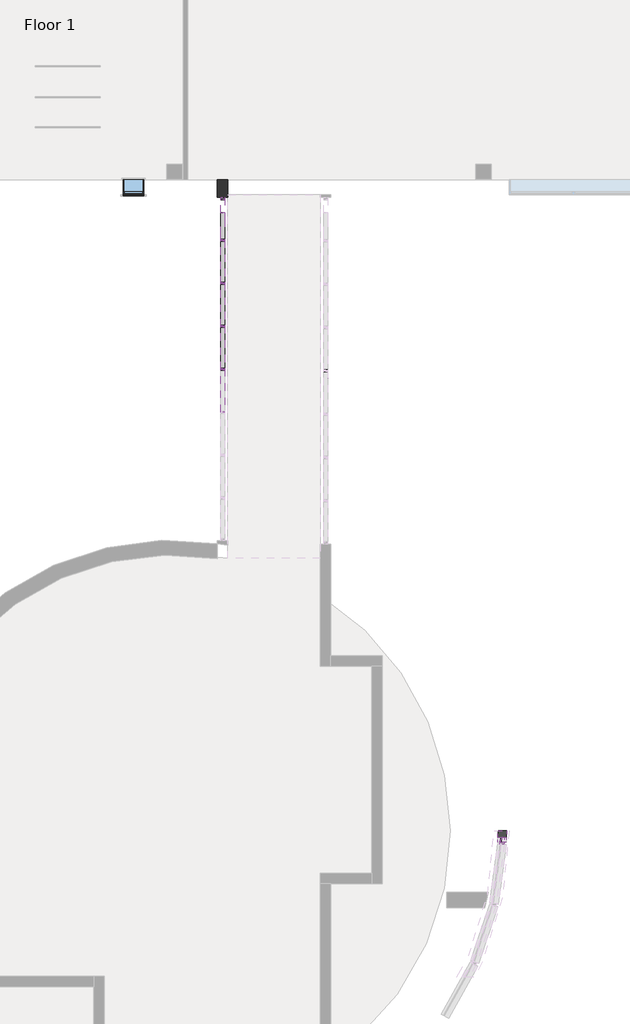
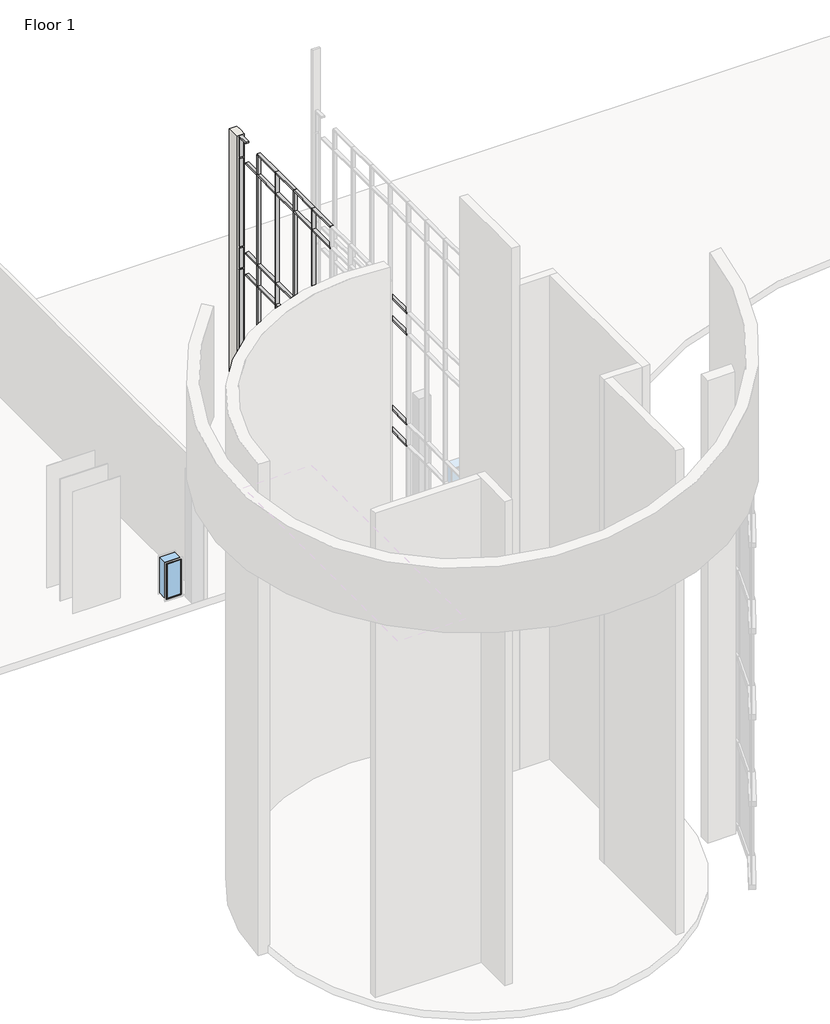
# One storey, part 8 of 11: 104 members, 5 plates, 1 wall, 1 window.
"""IFC4 building model written with IfcOpenShell, lengths in millimetres."""

from ifc_helpers import new_model, si_unit, origin, place, context, project, spatial, faceted_brep, transform, mapped, element, save
from components import member_15823cb3, member_5d07894b, member_c86c7f77, member_4cca5116, member_60e3aab2, member_7227ddca, member_3ba9e939, member_ad567e07, member_7db1855a, member_98b79ab6, member_b1809f7d, member_810865a4, member_923d5781, member_5c8c9790, member_bbf28ac8, member_d2e7e466, member_c17f1be2, member_eb4aacb2, member_4370fb8a, member_98c0bc9c, system_panel_glazed_bf13c76d, system_panel_glazed_c127a6e8, system_panel_glazed_a3432af0, window_69ce9bab

model = new_model("IFC4")

# Units and contexts
model_context = context("Model", 3, world=origin())
ifc_project = project(units=[si_unit("LENGTHUNIT", "METRE", prefix="MILLI")], contexts=[model_context])

# Site, building, storey
site = spatial("IfcSite", under=ifc_project)
building = spatial("IfcBuilding", under=site)
storey = spatial("IfcBuildingStorey", under=building, Name="Floor 1", Elevation=0.0)

# Members
placement = place(None, origin())
member_shape = member_15823cb3(model_context)
element("IfcMember", 1, ObjectType="Rectangular Mullion1 : 2.5\" x 5\" rectangular", at=placement, inside=storey, context=model_context, shape_type="MappedRepresentation", body=[
    mapped(member_shape, transform((7830.8276119, 38086.511889, 19659.6), x_axis=(0.0, 0.0, 1.0), y_axis=(1.0, 0.0, 0.0), z_axis=(0.0, 1.0, 0.0))),
])
member_2_shape = member_5d07894b(model_context)
element("IfcMember", 2, ObjectType="Rectangular Mullion1 : 2.5\" x 5\" rectangular", at=placement, inside=storey, context=model_context, shape_type="MappedRepresentation", body=[
    mapped(member_2_shape, transform((10878.8276119, 32955.711889, -88.9), x_axis=(0.0, 1.0, 0.0), y_axis=(1.0, 0.0, 0.0), z_axis=(0.0, 0.0, -1.0))),
])
element("IfcMember", 3, ObjectType="Rectangular Mullion1 : 2.5\" x 5\" rectangular", at=placement, inside=storey, context=model_context, shape_type="MappedRepresentation", body=[
    mapped(member_2_shape, transform((7830.8276119, 33002.5160341, -88.9), x_axis=(0.0, 1.0, 0.0), y_axis=(1.0, 0.0, 0.0), z_axis=(0.0, 0.0, -1.0))),
])
element("IfcMember", 4, ObjectType="Rectangular Mullion1 : 2.5\" x 5\" rectangular", at=placement, inside=storey, context=model_context, shape_type="MappedRepresentation", body=[
    mapped(member_2_shape, transform((7830.8276119, 35544.5139616, -88.9), x_axis=(0.0, 1.0, 0.0), y_axis=(1.0, 0.0, 0.0), z_axis=(0.0, 0.0, -1.0))),
])
element("IfcMember", 5, ObjectType="Rectangular Mullion1 : 2.5\" x 5\" rectangular", at=placement, inside=storey, context=model_context, shape_type="MappedRepresentation", body=[
    mapped(member_2_shape, transform((7830.8276119, 34273.5149978, -88.9), x_axis=(0.0, 1.0, 0.0), y_axis=(1.0, 0.0, 0.0), z_axis=(0.0, 0.0, -1.0))),
])
element("IfcMember", 6, ObjectType="Rectangular Mullion1 : 2.5\" x 5\" rectangular", at=placement, inside=storey, context=model_context, shape_type="MappedRepresentation", body=[
    mapped(member_2_shape, transform((7830.8276119, 36815.5129253, -88.9), x_axis=(0.0, 1.0, 0.0), y_axis=(1.0, 0.0, 0.0), z_axis=(0.0, 0.0, -1.0))),
])
member_3_shape = member_c86c7f77(model_context)
element("IfcMember", 7, ObjectType="Rectangular Mullion1 : 2.5\" x 5\" rectangular", at=placement, inside=storey, context=model_context, shape_type="MappedRepresentation", body=[
    mapped(member_3_shape, transform((7830.8276119, 34273.5149978, 5486.4), x_axis=(0.0, 0.0, 1.0), y_axis=(1.0, 0.0, 0.0), z_axis=(0.0, 1.0, 0.0))),
])
element("IfcMember", 8, ObjectType="Rectangular Mullion1 : 2.5\" x 5\" rectangular", at=placement, inside=storey, context=model_context, shape_type="MappedRepresentation", body=[
    mapped(member_3_shape, transform((7830.8276119, 36815.5129253, 5486.4), x_axis=(0.0, 0.0, 1.0), y_axis=(1.0, 0.0, 0.0), z_axis=(0.0, 1.0, 0.0))),
])
element("IfcMember", 9, ObjectType="Rectangular Mullion1 : 2.5\" x 5\" rectangular", at=placement, inside=storey, context=model_context, shape_type="MappedRepresentation", body=[
    mapped(member_3_shape, transform((7830.8276119, 33002.5160341, 5486.4), x_axis=(0.0, 0.0, 1.0), y_axis=(1.0, 0.0, 0.0), z_axis=(0.0, 1.0, 0.0))),
])
element("IfcMember", 10, ObjectType="Rectangular Mullion1 : 2.5\" x 5\" rectangular", at=placement, inside=storey, context=model_context, shape_type="MappedRepresentation", body=[
    mapped(member_3_shape, transform((7830.8276119, 35544.5139616, 5486.4), x_axis=(0.0, 0.0, 1.0), y_axis=(1.0, 0.0, 0.0), z_axis=(0.0, 1.0, 0.0))),
])
element("IfcMember", 11, ObjectType="Rectangular Mullion1 : 2.5\" x 5\" rectangular", at=placement, inside=storey, context=model_context, shape_type="MappedRepresentation", body=[
    mapped(member_3_shape, transform((7830.8276119, 34273.5149978, 10210.8), x_axis=(0.0, 0.0, 1.0), y_axis=(1.0, 0.0, 0.0), z_axis=(0.0, 1.0, 0.0))),
])
element("IfcMember", 12, ObjectType="Rectangular Mullion1 : 2.5\" x 5\" rectangular", at=placement, inside=storey, context=model_context, shape_type="MappedRepresentation", body=[
    mapped(member_3_shape, transform((7830.8276119, 36815.5129253, 10210.8), x_axis=(0.0, 0.0, 1.0), y_axis=(1.0, 0.0, 0.0), z_axis=(0.0, 1.0, 0.0))),
])
element("IfcMember", 13, ObjectType="Rectangular Mullion1 : 2.5\" x 5\" rectangular", at=placement, inside=storey, context=model_context, shape_type="MappedRepresentation", body=[
    mapped(member_3_shape, transform((7830.8276119, 33002.5160341, 10210.8), x_axis=(0.0, 0.0, 1.0), y_axis=(1.0, 0.0, 0.0), z_axis=(0.0, 1.0, 0.0))),
])
element("IfcMember", 14, ObjectType="Rectangular Mullion1 : 2.5\" x 5\" rectangular", at=placement, inside=storey, context=model_context, shape_type="MappedRepresentation", body=[
    mapped(member_3_shape, transform((7830.8276119, 35544.5139616, 10210.8), x_axis=(0.0, 0.0, 1.0), y_axis=(1.0, 0.0, 0.0), z_axis=(0.0, 1.0, 0.0))),
])
element("IfcMember", 15, ObjectType="Rectangular Mullion1 : 2.5\" x 5\" rectangular", at=placement, inside=storey, context=model_context, shape_type="MappedRepresentation", body=[
    mapped(member_3_shape, transform((7830.8276119, 34273.5149978, 14935.2), x_axis=(0.0, 0.0, 1.0), y_axis=(1.0, 0.0, 0.0), z_axis=(0.0, 1.0, 0.0))),
])
element("IfcMember", 16, ObjectType="Rectangular Mullion1 : 2.5\" x 5\" rectangular", at=placement, inside=storey, context=model_context, shape_type="MappedRepresentation", body=[
    mapped(member_3_shape, transform((7830.8276119, 36815.5129253, 14935.2), x_axis=(0.0, 0.0, 1.0), y_axis=(1.0, 0.0, 0.0), z_axis=(0.0, 1.0, 0.0))),
])
element("IfcMember", 17, ObjectType="Rectangular Mullion1 : 2.5\" x 5\" rectangular", at=placement, inside=storey, context=model_context, shape_type="MappedRepresentation", body=[
    mapped(member_3_shape, transform((7830.8276119, 33002.5160341, 14935.2), x_axis=(0.0, 0.0, 1.0), y_axis=(1.0, 0.0, 0.0), z_axis=(0.0, 1.0, 0.0))),
])
element("IfcMember", 18, ObjectType="Rectangular Mullion1 : 2.5\" x 5\" rectangular", at=placement, inside=storey, context=model_context, shape_type="MappedRepresentation", body=[
    mapped(member_3_shape, transform((7830.8276119, 35544.5139616, 14935.2), x_axis=(0.0, 0.0, 1.0), y_axis=(1.0, 0.0, 0.0), z_axis=(0.0, 1.0, 0.0))),
])
element("IfcMember", 19, ObjectType="Rectangular Mullion1 : 2.5\" x 5\" rectangular", at=placement, inside=storey, context=model_context, shape_type="MappedRepresentation", body=[
    mapped(member_3_shape, transform((7830.8276119, 34273.5149978, 18745.2), x_axis=(0.0, 0.0, 1.0), y_axis=(1.0, 0.0, 0.0), z_axis=(0.0, 1.0, 0.0))),
])
element("IfcMember", 20, ObjectType="Rectangular Mullion1 : 2.5\" x 5\" rectangular", at=placement, inside=storey, context=model_context, shape_type="MappedRepresentation", body=[
    mapped(member_3_shape, transform((7830.8276119, 36815.5129253, 18745.2), x_axis=(0.0, 0.0, 1.0), y_axis=(1.0, 0.0, 0.0), z_axis=(0.0, 1.0, 0.0))),
])
element("IfcMember", 21, ObjectType="Rectangular Mullion1 : 2.5\" x 5\" rectangular", at=placement, inside=storey, context=model_context, shape_type="MappedRepresentation", body=[
    mapped(member_3_shape, transform((7830.8276119, 33002.5160341, 18745.2), x_axis=(0.0, 0.0, 1.0), y_axis=(1.0, 0.0, 0.0), z_axis=(0.0, 1.0, 0.0))),
])
element("IfcMember", 22, ObjectType="Rectangular Mullion1 : 2.5\" x 5\" rectangular", at=placement, inside=storey, context=model_context, shape_type="MappedRepresentation", body=[
    mapped(member_3_shape, transform((7830.8276119, 35544.5139616, 18745.2), x_axis=(0.0, 0.0, 1.0), y_axis=(1.0, 0.0, 0.0), z_axis=(0.0, 1.0, 0.0))),
])
element("IfcMember", 23, ObjectType="Rectangular Mullion1 : 2.5\" x 5\" rectangular", at=placement, inside=storey, context=model_context, shape_type="MappedRepresentation", body=[
    mapped(member_3_shape, transform((7830.8276119, 34273.5149978, 14020.8), x_axis=(0.0, 0.0, 1.0), y_axis=(1.0, 0.0, 0.0), z_axis=(0.0, 1.0, 0.0))),
])
element("IfcMember", 24, ObjectType="Rectangular Mullion1 : 2.5\" x 5\" rectangular", at=placement, inside=storey, context=model_context, shape_type="MappedRepresentation", body=[
    mapped(member_3_shape, transform((7830.8276119, 36815.5129253, 14020.8), x_axis=(0.0, 0.0, 1.0), y_axis=(1.0, 0.0, 0.0), z_axis=(0.0, 1.0, 0.0))),
])
element("IfcMember", 25, ObjectType="Rectangular Mullion1 : 2.5\" x 5\" rectangular", at=placement, inside=storey, context=model_context, shape_type="MappedRepresentation", body=[
    mapped(member_3_shape, transform((7830.8276119, 33002.5160341, 14020.8), x_axis=(0.0, 0.0, 1.0), y_axis=(1.0, 0.0, 0.0), z_axis=(0.0, 1.0, 0.0))),
])
element("IfcMember", 26, ObjectType="Rectangular Mullion1 : 2.5\" x 5\" rectangular", at=placement, inside=storey, context=model_context, shape_type="MappedRepresentation", body=[
    mapped(member_3_shape, transform((7830.8276119, 35544.5139616, 14020.8), x_axis=(0.0, 0.0, 1.0), y_axis=(1.0, 0.0, 0.0), z_axis=(0.0, 1.0, 0.0))),
])
element("IfcMember", 27, ObjectType="Rectangular Mullion1 : 2.5\" x 5\" rectangular", at=placement, inside=storey, context=model_context, shape_type="MappedRepresentation", body=[
    mapped(member_3_shape, transform((7830.8276119, 34273.5149978, 9296.4), x_axis=(0.0, 0.0, 1.0), y_axis=(1.0, 0.0, 0.0), z_axis=(0.0, 1.0, 0.0))),
])
element("IfcMember", 28, ObjectType="Rectangular Mullion1 : 2.5\" x 5\" rectangular", at=placement, inside=storey, context=model_context, shape_type="MappedRepresentation", body=[
    mapped(member_3_shape, transform((7830.8276119, 36815.5129253, 9296.4), x_axis=(0.0, 0.0, 1.0), y_axis=(1.0, 0.0, 0.0), z_axis=(0.0, 1.0, 0.0))),
])
element("IfcMember", 29, ObjectType="Rectangular Mullion1 : 2.5\" x 5\" rectangular", at=placement, inside=storey, context=model_context, shape_type="MappedRepresentation", body=[
    mapped(member_3_shape, transform((7830.8276119, 33002.5160341, 9296.4), x_axis=(0.0, 0.0, 1.0), y_axis=(1.0, 0.0, 0.0), z_axis=(0.0, 1.0, 0.0))),
])
element("IfcMember", 30, ObjectType="Rectangular Mullion1 : 2.5\" x 5\" rectangular", at=placement, inside=storey, context=model_context, shape_type="MappedRepresentation", body=[
    mapped(member_3_shape, transform((7830.8276119, 35544.5139616, 9296.4), x_axis=(0.0, 0.0, 1.0), y_axis=(1.0, 0.0, 0.0), z_axis=(0.0, 1.0, 0.0))),
])
element("IfcMember", 31, ObjectType="Rectangular Mullion1 : 2.5\" x 5\" rectangular", at=placement, inside=storey, context=model_context, shape_type="MappedRepresentation", body=[
    mapped(member_3_shape, transform((7830.8276119, 34273.5149978, 4572.0), x_axis=(0.0, 0.0, 1.0), y_axis=(1.0, 0.0, 0.0), z_axis=(0.0, 1.0, 0.0))),
])
element("IfcMember", 32, ObjectType="Rectangular Mullion1 : 2.5\" x 5\" rectangular", at=placement, inside=storey, context=model_context, shape_type="MappedRepresentation", body=[
    mapped(member_3_shape, transform((7830.8276119, 36815.5129253, 4572.0), x_axis=(0.0, 0.0, 1.0), y_axis=(1.0, 0.0, 0.0), z_axis=(0.0, 1.0, 0.0))),
])
element("IfcMember", 33, ObjectType="Rectangular Mullion1 : 2.5\" x 5\" rectangular", at=placement, inside=storey, context=model_context, shape_type="MappedRepresentation", body=[
    mapped(member_3_shape, transform((7830.8276119, 33002.5160341, 4572.0), x_axis=(0.0, 0.0, 1.0), y_axis=(1.0, 0.0, 0.0), z_axis=(0.0, 1.0, 0.0))),
])
element("IfcMember", 34, ObjectType="Rectangular Mullion1 : 2.5\" x 5\" rectangular", at=placement, inside=storey, context=model_context, shape_type="MappedRepresentation", body=[
    mapped(member_3_shape, transform((7830.8276119, 35544.5139616, 4572.0), x_axis=(0.0, 0.0, 1.0), y_axis=(1.0, 0.0, 0.0), z_axis=(0.0, 1.0, 0.0))),
])
member_4_shape = member_4cca5116(model_context)
element("IfcMember", 35, ObjectType="Rectangular Mullion1 : 2.5\" x 5\" rectangular", at=placement, inside=storey, context=model_context, shape_type="MappedRepresentation", body=[
    mapped(member_4_shape, transform((7830.8276119, 37629.311889, 5486.4), x_axis=(0.0, 0.0, 1.0), y_axis=(1.0, 0.0, 0.0), z_axis=(0.0, 1.0, 0.0))),
])
element("IfcMember", 36, ObjectType="Rectangular Mullion1 : 2.5\" x 5\" rectangular", at=placement, inside=storey, context=model_context, shape_type="MappedRepresentation", body=[
    mapped(member_4_shape, transform((7830.8276119, 37629.311889, 10210.8), x_axis=(0.0, 0.0, 1.0), y_axis=(1.0, 0.0, 0.0), z_axis=(0.0, 1.0, 0.0))),
])
element("IfcMember", 37, ObjectType="Rectangular Mullion1 : 2.5\" x 5\" rectangular", at=placement, inside=storey, context=model_context, shape_type="MappedRepresentation", body=[
    mapped(member_4_shape, transform((7830.8276119, 37629.311889, 14935.2), x_axis=(0.0, 0.0, 1.0), y_axis=(1.0, 0.0, 0.0), z_axis=(0.0, 1.0, 0.0))),
])
element("IfcMember", 38, ObjectType="Rectangular Mullion1 : 2.5\" x 5\" rectangular", at=placement, inside=storey, context=model_context, shape_type="MappedRepresentation", body=[
    mapped(member_4_shape, transform((7830.8276119, 37629.311889, 18745.2), x_axis=(0.0, 0.0, 1.0), y_axis=(1.0, 0.0, 0.0), z_axis=(0.0, 1.0, 0.0))),
])
element("IfcMember", 39, ObjectType="Rectangular Mullion1 : 2.5\" x 5\" rectangular", at=placement, inside=storey, context=model_context, shape_type="MappedRepresentation", body=[
    mapped(member_4_shape, transform((7830.8276119, 37629.311889, 14020.8), x_axis=(0.0, 0.0, 1.0), y_axis=(1.0, 0.0, 0.0), z_axis=(0.0, 1.0, 0.0))),
])
element("IfcMember", 40, ObjectType="Rectangular Mullion1 : 2.5\" x 5\" rectangular", at=placement, inside=storey, context=model_context, shape_type="MappedRepresentation", body=[
    mapped(member_4_shape, transform((7830.8276119, 37629.311889, 9296.4), x_axis=(0.0, 0.0, 1.0), y_axis=(1.0, 0.0, 0.0), z_axis=(0.0, 1.0, 0.0))),
])
element("IfcMember", 41, ObjectType="Rectangular Mullion1 : 2.5\" x 5\" rectangular", at=placement, inside=storey, context=model_context, shape_type="MappedRepresentation", body=[
    mapped(member_4_shape, transform((7830.8276119, 37629.311889, 4572.0), x_axis=(0.0, 0.0, 1.0), y_axis=(1.0, 0.0, 0.0), z_axis=(0.0, 1.0, 0.0))),
])
member_5_shape = member_60e3aab2(model_context)
element("IfcMember", 42, ObjectType="Rectangular Mullion1 : 2.5\" x 5\" rectangular", at=placement, inside=storey, context=model_context, shape_type="MappedRepresentation", body=[
    mapped(member_5_shape, transform((7830.8276119, 33002.5160341, -152.4), x_axis=(0.0, 0.0, -1.0), y_axis=(1.0, 0.0, 0.0), z_axis=(0.0, -1.0, 0.0))),
])
element("IfcMember", 43, ObjectType="Rectangular Mullion1 : 2.5\" x 5\" rectangular", at=placement, inside=storey, context=model_context, shape_type="MappedRepresentation", body=[
    mapped(member_5_shape, transform((7830.8276119, 35544.5139616, -152.4), x_axis=(0.0, 0.0, -1.0), y_axis=(1.0, 0.0, 0.0), z_axis=(0.0, -1.0, 0.0))),
])
element("IfcMember", 44, ObjectType="Rectangular Mullion1 : 2.5\" x 5\" rectangular", at=placement, inside=storey, context=model_context, shape_type="MappedRepresentation", body=[
    mapped(member_5_shape, transform((7830.8276119, 34273.5149978, -152.4), x_axis=(0.0, 0.0, -1.0), y_axis=(1.0, 0.0, 0.0), z_axis=(0.0, -1.0, 0.0))),
])
member_6_shape = member_7227ddca(model_context)
element("IfcMember", 45, ObjectType="Rectangular Mullion1 : 2.5\" x 5\" rectangular", at=placement, inside=storey, context=model_context, shape_type="MappedRepresentation", body=[
    mapped(member_6_shape, transform((7830.8276119, 36815.5129253, -152.4), x_axis=(0.0, 0.0, -1.0), y_axis=(1.0, 0.0, 0.0), z_axis=(0.0, -1.0, 0.0))),
])
element("IfcMember", 46, ObjectType="Rectangular Mullion1 : 2.5\" x 5\" rectangular", at=placement, inside=storey, context=model_context, shape_type="MappedRepresentation", body=[
    mapped(member_5_shape, transform((7830.8276119, 33002.5160341, 19659.6), x_axis=(0.0, 0.0, 1.0), y_axis=(1.0, 0.0, 0.0), z_axis=(0.0, 1.0, 0.0))),
])
element("IfcMember", 47, ObjectType="Rectangular Mullion1 : 2.5\" x 5\" rectangular", at=placement, inside=storey, context=model_context, shape_type="MappedRepresentation", body=[
    mapped(member_5_shape, transform((7830.8276119, 35544.5139616, 19659.6), x_axis=(0.0, 0.0, 1.0), y_axis=(1.0, 0.0, 0.0), z_axis=(0.0, 1.0, 0.0))),
])
element("IfcMember", 48, ObjectType="Rectangular Mullion1 : 2.5\" x 5\" rectangular", at=placement, inside=storey, context=model_context, shape_type="MappedRepresentation", body=[
    mapped(member_5_shape, transform((7830.8276119, 34273.5149978, 19659.6), x_axis=(0.0, 0.0, 1.0), y_axis=(1.0, 0.0, 0.0), z_axis=(0.0, 1.0, 0.0))),
])
element("IfcMember", 49, ObjectType="Rectangular Mullion1 : 2.5\" x 5\" rectangular", at=placement, inside=storey, context=model_context, shape_type="MappedRepresentation", body=[
    mapped(member_5_shape, transform((7830.8276119, 36815.5129253, 19659.6), x_axis=(0.0, 0.0, 1.0), y_axis=(1.0, 0.0, 0.0), z_axis=(0.0, 1.0, 0.0))),
])
member_7_shape = member_3ba9e939(model_context)
element("IfcMember", 50, ObjectType="Rectangular Mullion1 : 2.5\" x 5\" rectangular", at=placement, inside=storey, context=model_context, shape_type="MappedRepresentation", body=[
    mapped(member_7_shape, transform((7830.8276119, 33002.5160341, 5518.15), x_axis=(0.0, 1.0, 0.0), y_axis=(1.0, 0.0, 0.0), z_axis=(0.0, 0.0, -1.0))),
])
element("IfcMember", 51, ObjectType="Rectangular Mullion1 : 2.5\" x 5\" rectangular", at=placement, inside=storey, context=model_context, shape_type="MappedRepresentation", body=[
    mapped(member_7_shape, transform((7830.8276119, 33002.5160341, 10242.55), x_axis=(0.0, 1.0, 0.0), y_axis=(1.0, 0.0, 0.0), z_axis=(0.0, 0.0, -1.0))),
])
element("IfcMember", 52, ObjectType="Rectangular Mullion1 : 2.5\" x 5\" rectangular", at=placement, inside=storey, context=model_context, shape_type="MappedRepresentation", body=[
    mapped(member_7_shape, transform((7830.8276119, 33002.5160341, 14966.95), x_axis=(0.0, 1.0, 0.0), y_axis=(1.0, 0.0, 0.0), z_axis=(0.0, 0.0, -1.0))),
])
element("IfcMember", 53, ObjectType="Rectangular Mullion1 : 2.5\" x 5\" rectangular", at=placement, inside=storey, context=model_context, shape_type="MappedRepresentation", body=[
    mapped(member_7_shape, transform((7830.8276119, 35544.5139616, 5518.15), x_axis=(0.0, 1.0, 0.0), y_axis=(1.0, 0.0, 0.0), z_axis=(0.0, 0.0, -1.0))),
])
element("IfcMember", 54, ObjectType="Rectangular Mullion1 : 2.5\" x 5\" rectangular", at=placement, inside=storey, context=model_context, shape_type="MappedRepresentation", body=[
    mapped(member_7_shape, transform((7830.8276119, 35544.5139616, 10242.55), x_axis=(0.0, 1.0, 0.0), y_axis=(1.0, 0.0, 0.0), z_axis=(0.0, 0.0, -1.0))),
])
element("IfcMember", 55, ObjectType="Rectangular Mullion1 : 2.5\" x 5\" rectangular", at=placement, inside=storey, context=model_context, shape_type="MappedRepresentation", body=[
    mapped(member_7_shape, transform((7830.8276119, 35544.5139616, 14966.95), x_axis=(0.0, 1.0, 0.0), y_axis=(1.0, 0.0, 0.0), z_axis=(0.0, 0.0, -1.0))),
])
element("IfcMember", 56, ObjectType="Rectangular Mullion1 : 2.5\" x 5\" rectangular", at=placement, inside=storey, context=model_context, shape_type="MappedRepresentation", body=[
    mapped(member_7_shape, transform((7830.8276119, 34273.5149978, 5518.15), x_axis=(0.0, 1.0, 0.0), y_axis=(1.0, 0.0, 0.0), z_axis=(0.0, 0.0, -1.0))),
])
element("IfcMember", 57, ObjectType="Rectangular Mullion1 : 2.5\" x 5\" rectangular", at=placement, inside=storey, context=model_context, shape_type="MappedRepresentation", body=[
    mapped(member_7_shape, transform((7830.8276119, 34273.5149978, 10242.55), x_axis=(0.0, 1.0, 0.0), y_axis=(1.0, 0.0, 0.0), z_axis=(0.0, 0.0, -1.0))),
])
element("IfcMember", 58, ObjectType="Rectangular Mullion1 : 2.5\" x 5\" rectangular", at=placement, inside=storey, context=model_context, shape_type="MappedRepresentation", body=[
    mapped(member_7_shape, transform((7830.8276119, 34273.5149978, 14966.95), x_axis=(0.0, 1.0, 0.0), y_axis=(1.0, 0.0, 0.0), z_axis=(0.0, 0.0, -1.0))),
])
element("IfcMember", 59, ObjectType="Rectangular Mullion1 : 2.5\" x 5\" rectangular", at=placement, inside=storey, context=model_context, shape_type="MappedRepresentation", body=[
    mapped(member_7_shape, transform((7830.8276119, 36815.5129253, 5518.15), x_axis=(0.0, 1.0, 0.0), y_axis=(1.0, 0.0, 0.0), z_axis=(0.0, 0.0, -1.0))),
])
element("IfcMember", 60, ObjectType="Rectangular Mullion1 : 2.5\" x 5\" rectangular", at=placement, inside=storey, context=model_context, shape_type="MappedRepresentation", body=[
    mapped(member_7_shape, transform((7830.8276119, 36815.5129253, 10242.55), x_axis=(0.0, 1.0, 0.0), y_axis=(1.0, 0.0, 0.0), z_axis=(0.0, 0.0, -1.0))),
])
element("IfcMember", 61, ObjectType="Rectangular Mullion1 : 2.5\" x 5\" rectangular", at=placement, inside=storey, context=model_context, shape_type="MappedRepresentation", body=[
    mapped(member_7_shape, transform((7830.8276119, 36815.5129253, 14966.95), x_axis=(0.0, 1.0, 0.0), y_axis=(1.0, 0.0, 0.0), z_axis=(0.0, 0.0, -1.0))),
])
member_8_shape = member_ad567e07(model_context)
element("IfcMember", 62, ObjectType="Rectangular Mullion1 : 2.5\" x 5\" rectangular", at=placement, inside=storey, context=model_context, shape_type="MappedRepresentation", body=[
    mapped(member_8_shape, transform((7830.8276119, 33002.5160341, 18776.95), x_axis=(0.0, 1.0, 0.0), y_axis=(1.0, 0.0, 0.0), z_axis=(0.0, 0.0, -1.0))),
])
element("IfcMember", 63, ObjectType="Rectangular Mullion1 : 2.5\" x 5\" rectangular", at=placement, inside=storey, context=model_context, shape_type="MappedRepresentation", body=[
    mapped(member_8_shape, transform((7830.8276119, 35544.5139616, 18776.95), x_axis=(0.0, 1.0, 0.0), y_axis=(1.0, 0.0, 0.0), z_axis=(0.0, 0.0, -1.0))),
])
element("IfcMember", 64, ObjectType="Rectangular Mullion1 : 2.5\" x 5\" rectangular", at=placement, inside=storey, context=model_context, shape_type="MappedRepresentation", body=[
    mapped(member_8_shape, transform((7830.8276119, 34273.5149978, 18776.95), x_axis=(0.0, 1.0, 0.0), y_axis=(1.0, 0.0, 0.0), z_axis=(0.0, 0.0, -1.0))),
])
element("IfcMember", 65, ObjectType="Rectangular Mullion1 : 2.5\" x 5\" rectangular", at=placement, inside=storey, context=model_context, shape_type="MappedRepresentation", body=[
    mapped(member_8_shape, transform((7830.8276119, 36815.5129253, 18776.95), x_axis=(0.0, 1.0, 0.0), y_axis=(1.0, 0.0, 0.0), z_axis=(0.0, 0.0, -1.0))),
])
member_9_shape = member_7db1855a(model_context)
element("IfcMember", 66, ObjectType="Rectangular Mullion1 : 2.5\" x 5\" rectangular", at=placement, inside=storey, context=model_context, shape_type="MappedRepresentation", body=[
    mapped(member_9_shape, transform((7830.8276119, 33002.5160341, 14052.55), x_axis=(0.0, 1.0, 0.0), y_axis=(1.0, 0.0, 0.0), z_axis=(0.0, 0.0, -1.0))),
])
element("IfcMember", 67, ObjectType="Rectangular Mullion1 : 2.5\" x 5\" rectangular", at=placement, inside=storey, context=model_context, shape_type="MappedRepresentation", body=[
    mapped(member_9_shape, transform((7830.8276119, 33002.5160341, 9328.15), x_axis=(0.0, 1.0, 0.0), y_axis=(1.0, 0.0, 0.0), z_axis=(0.0, 0.0, -1.0))),
])
element("IfcMember", 68, ObjectType="Rectangular Mullion1 : 2.5\" x 5\" rectangular", at=placement, inside=storey, context=model_context, shape_type="MappedRepresentation", body=[
    mapped(member_9_shape, transform((7830.8276119, 33002.5160341, 4603.75), x_axis=(0.0, 1.0, 0.0), y_axis=(1.0, 0.0, 0.0), z_axis=(0.0, 0.0, -1.0))),
])
element("IfcMember", 69, ObjectType="Rectangular Mullion1 : 2.5\" x 5\" rectangular", at=placement, inside=storey, context=model_context, shape_type="MappedRepresentation", body=[
    mapped(member_9_shape, transform((7830.8276119, 35544.5139616, 14052.55), x_axis=(0.0, 1.0, 0.0), y_axis=(1.0, 0.0, 0.0), z_axis=(0.0, 0.0, -1.0))),
])
element("IfcMember", 70, ObjectType="Rectangular Mullion1 : 2.5\" x 5\" rectangular", at=placement, inside=storey, context=model_context, shape_type="MappedRepresentation", body=[
    mapped(member_9_shape, transform((7830.8276119, 35544.5139616, 9328.15), x_axis=(0.0, 1.0, 0.0), y_axis=(1.0, 0.0, 0.0), z_axis=(0.0, 0.0, -1.0))),
])
element("IfcMember", 71, ObjectType="Rectangular Mullion1 : 2.5\" x 5\" rectangular", at=placement, inside=storey, context=model_context, shape_type="MappedRepresentation", body=[
    mapped(member_9_shape, transform((7830.8276119, 35544.5139616, 4603.75), x_axis=(0.0, 1.0, 0.0), y_axis=(1.0, 0.0, 0.0), z_axis=(0.0, 0.0, -1.0))),
])
element("IfcMember", 72, ObjectType="Rectangular Mullion1 : 2.5\" x 5\" rectangular", at=placement, inside=storey, context=model_context, shape_type="MappedRepresentation", body=[
    mapped(member_9_shape, transform((7830.8276119, 34273.5149978, 14052.55), x_axis=(0.0, 1.0, 0.0), y_axis=(1.0, 0.0, 0.0), z_axis=(0.0, 0.0, -1.0))),
])
element("IfcMember", 73, ObjectType="Rectangular Mullion1 : 2.5\" x 5\" rectangular", at=placement, inside=storey, context=model_context, shape_type="MappedRepresentation", body=[
    mapped(member_9_shape, transform((7830.8276119, 34273.5149978, 9328.15), x_axis=(0.0, 1.0, 0.0), y_axis=(1.0, 0.0, 0.0), z_axis=(0.0, 0.0, -1.0))),
])
element("IfcMember", 74, ObjectType="Rectangular Mullion1 : 2.5\" x 5\" rectangular", at=placement, inside=storey, context=model_context, shape_type="MappedRepresentation", body=[
    mapped(member_9_shape, transform((7830.8276119, 34273.5149978, 4603.75), x_axis=(0.0, 1.0, 0.0), y_axis=(1.0, 0.0, 0.0), z_axis=(0.0, 0.0, -1.0))),
])
element("IfcMember", 75, ObjectType="Rectangular Mullion1 : 2.5\" x 5\" rectangular", at=placement, inside=storey, context=model_context, shape_type="MappedRepresentation", body=[
    mapped(member_9_shape, transform((7830.8276119, 36815.5129253, 14052.55), x_axis=(0.0, 1.0, 0.0), y_axis=(1.0, 0.0, 0.0), z_axis=(0.0, 0.0, -1.0))),
])
element("IfcMember", 76, ObjectType="Rectangular Mullion1 : 2.5\" x 5\" rectangular", at=placement, inside=storey, context=model_context, shape_type="MappedRepresentation", body=[
    mapped(member_9_shape, transform((7830.8276119, 36815.5129253, 9328.15), x_axis=(0.0, 1.0, 0.0), y_axis=(1.0, 0.0, 0.0), z_axis=(0.0, 0.0, -1.0))),
])
element("IfcMember", 77, ObjectType="Rectangular Mullion1 : 2.5\" x 5\" rectangular", at=placement, inside=storey, context=model_context, shape_type="MappedRepresentation", body=[
    mapped(member_9_shape, transform((7830.8276119, 36815.5129253, 4603.75), x_axis=(0.0, 1.0, 0.0), y_axis=(1.0, 0.0, 0.0), z_axis=(0.0, 0.0, -1.0))),
])
member_10_shape = member_98b79ab6(model_context)
element("IfcMember", 78, ObjectType="Rectangular Mullion1 : 2.5\" x 5\" rectangular", at=placement, inside=storey, context=model_context, shape_type="MappedRepresentation", body=[
    mapped(member_10_shape, transform((10878.8276119, 32955.711889, 14935.2), x_axis=(0.0, 0.0, 1.0), y_axis=(1.0, 0.0, 0.0), z_axis=(0.0, 1.0, 0.0))),
])
element("IfcMember", 79, ObjectType="Rectangular Mullion1 : 2.5\" x 5\" rectangular", at=placement, inside=storey, context=model_context, shape_type="MappedRepresentation", body=[
    mapped(member_10_shape, transform((10878.8276119, 32955.711889, 10210.8), x_axis=(0.0, 0.0, 1.0), y_axis=(1.0, 0.0, 0.0), z_axis=(0.0, 1.0, 0.0))),
])
element("IfcMember", 80, ObjectType="Rectangular Mullion1 : 2.5\" x 5\" rectangular", at=placement, inside=storey, context=model_context, shape_type="MappedRepresentation", body=[
    mapped(member_10_shape, transform((10878.8276119, 32955.711889, 5486.4), x_axis=(0.0, 0.0, 1.0), y_axis=(1.0, 0.0, 0.0), z_axis=(0.0, 1.0, 0.0))),
])
element("IfcMember", 81, ObjectType="Rectangular Mullion1 : 2.5\" x 5\" rectangular", at=placement, inside=storey, context=model_context, shape_type="MappedRepresentation", body=[
    mapped(member_10_shape, transform((10878.8276119, 32955.711889, 9296.4), x_axis=(0.0, 0.0, 1.0), y_axis=(1.0, 0.0, 0.0), z_axis=(0.0, 1.0, 0.0))),
])
element("IfcMember", 82, ObjectType="Rectangular Mullion1 : 2.5\" x 5\" rectangular", at=placement, inside=storey, context=model_context, shape_type="MappedRepresentation", body=[
    mapped(member_10_shape, transform((10878.8276119, 32955.711889, 4572.0), x_axis=(0.0, 0.0, 1.0), y_axis=(1.0, 0.0, 0.0), z_axis=(0.0, 1.0, 0.0))),
])
element("IfcMember", 83, ObjectType="Rectangular Mullion1 : 2.5\" x 5\" rectangular", at=placement, inside=storey, context=model_context, shape_type="MappedRepresentation", body=[
    mapped(member_10_shape, transform((10878.8276119, 32955.711889, 14020.8), x_axis=(0.0, 0.0, 1.0), y_axis=(1.0, 0.0, 0.0), z_axis=(0.0, 1.0, 0.0))),
])
member_11_shape = member_b1809f7d(model_context)
element("IfcMember", 84, ObjectType="Rectangular Mullion1 : 2.5\" x 5\" rectangular", at=placement, inside=storey, context=model_context, shape_type="MappedRepresentation", body=[
    mapped(member_11_shape, transform((16104.259042, 19138.1495032, 17373.6), x_axis=(0.0, 0.0, 1.0), y_axis=(0.9998148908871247, -0.01924016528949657, 0.0), z_axis=(0.01924016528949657, 0.9998148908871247, 0.0))),
])
member_12_shape = member_810865a4(model_context)
element("IfcMember", 85, ObjectType="Rectangular Mullion1 : 2.5\" x 5\" rectangular", at=placement, inside=storey, context=model_context, shape_type="MappedRepresentation", body=[
    mapped(member_12_shape, transform((16100.9680149, 18967.1313281, 7315.2), x_axis=(0.03847320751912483, 0.9992596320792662, 0.0), y_axis=(0.9992596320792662, -0.03847320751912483, 0.0), z_axis=(0.0, 0.0, -1.0))),
])
element("IfcMember", 86, ObjectType="Rectangular Mullion1 : 2.5\" x 5\" rectangular", at=placement, inside=storey, context=model_context, shape_type="MappedRepresentation", body=[
    mapped(member_12_shape, transform((16100.9680149, 18967.1313281, 10972.8), x_axis=(0.03847320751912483, 0.9992596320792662, 0.0), y_axis=(0.9992596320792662, -0.03847320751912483, 0.0), z_axis=(0.0, 0.0, -1.0))),
])
member_13_shape = member_923d5781(model_context)
element("IfcMember", 87, ObjectType="Rectangular Mullion1 : 2.5\" x 5\" rectangular", at=placement, inside=storey, context=model_context, shape_type="MappedRepresentation", body=[
    mapped(member_13_shape, transform((16100.9680149, 18967.1313281, 14630.4), x_axis=(0.03847320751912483, 0.9992596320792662, 0.0), y_axis=(0.9992596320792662, -0.03847320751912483, 0.0), z_axis=(0.0, 0.0, -1.0))),
])
member_14_shape = member_5c8c9790(model_context)
element("IfcMember", 88, ObjectType="Rectangular Mullion1 : 2.5\" x 5\" rectangular", at=placement, inside=storey, context=model_context, shape_type="MappedRepresentation", body=[
    mapped(member_14_shape, transform((7830.8276119, 38086.511889, -88.9), x_axis=(0.0, 1.0, 0.0), y_axis=(1.0, 0.0, 0.0), z_axis=(0.0, 0.0, -1.0))),
])
member_15_shape = member_bbf28ac8(model_context)
element("IfcMember", 89, ObjectType="Rectangular Mullion1 : 2.5\" x 5\" rectangular", at=placement, inside=storey, context=model_context, shape_type="MappedRepresentation", body=[
    mapped(member_15_shape, transform((7830.8276119, 38086.511889, 5518.15), x_axis=(0.0, 1.0, 0.0), y_axis=(1.0, 0.0, 0.0), z_axis=(0.0, 0.0, -1.0))),
])
element("IfcMember", 90, ObjectType="Rectangular Mullion1 : 2.5\" x 5\" rectangular", at=placement, inside=storey, context=model_context, shape_type="MappedRepresentation", body=[
    mapped(member_15_shape, transform((7830.8276119, 38086.511889, 10242.55), x_axis=(0.0, 1.0, 0.0), y_axis=(1.0, 0.0, 0.0), z_axis=(0.0, 0.0, -1.0))),
])
element("IfcMember", 91, ObjectType="Rectangular Mullion1 : 2.5\" x 5\" rectangular", at=placement, inside=storey, context=model_context, shape_type="MappedRepresentation", body=[
    mapped(member_15_shape, transform((7830.8276119, 38086.511889, 14966.95), x_axis=(0.0, 1.0, 0.0), y_axis=(1.0, 0.0, 0.0), z_axis=(0.0, 0.0, -1.0))),
])
member_16_shape = member_d2e7e466(model_context)
element("IfcMember", 92, ObjectType="Rectangular Mullion1 : 2.5\" x 5\" rectangular", at=placement, inside=storey, context=model_context, shape_type="MappedRepresentation", body=[
    mapped(member_16_shape, transform((7830.8276119, 38086.511889, 14052.55), x_axis=(0.0, 1.0, 0.0), y_axis=(1.0, 0.0, 0.0), z_axis=(0.0, 0.0, -1.0))),
])
element("IfcMember", 93, ObjectType="Rectangular Mullion1 : 2.5\" x 5\" rectangular", at=placement, inside=storey, context=model_context, shape_type="MappedRepresentation", body=[
    mapped(member_16_shape, transform((7830.8276119, 38086.511889, 9328.15), x_axis=(0.0, 1.0, 0.0), y_axis=(1.0, 0.0, 0.0), z_axis=(0.0, 0.0, -1.0))),
])
element("IfcMember", 94, ObjectType="Rectangular Mullion1 : 2.5\" x 5\" rectangular", at=placement, inside=storey, context=model_context, shape_type="MappedRepresentation", body=[
    mapped(member_16_shape, transform((7830.8276119, 38086.511889, 4603.75), x_axis=(0.0, 1.0, 0.0), y_axis=(1.0, 0.0, 0.0), z_axis=(0.0, 0.0, -1.0))),
])
member_17_shape = member_c17f1be2(model_context)
element("IfcMember", 95, ObjectType="Rectangular Mullion1 : 2.5\" x 5\" rectangular", at=placement, inside=storey, context=model_context, shape_type="MappedRepresentation", body=[
    mapped(member_17_shape, transform((7830.8276119, 38086.511889, 18776.95), x_axis=(0.0, 1.0, 0.0), y_axis=(1.0, 0.0, 0.0), z_axis=(0.0, 0.0, -1.0))),
])
member_18_shape = member_eb4aacb2(model_context)
element("IfcMember", 96, ObjectType="Rectangular Mullion1 : 8\" x 10\" rectangular", at=placement, inside=storey, context=model_context, shape_type="MappedRepresentation", body=[
    mapped(member_18_shape, transform((16104.259042, 19138.1495032, 3657.6), x_axis=(0.0, 0.0, 1.0), y_axis=(0.9998148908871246, -0.019240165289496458, 0.0), z_axis=(0.019240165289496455, 0.9998148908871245, 0.0))),
])
element("IfcMember", 97, ObjectType="Rectangular Mullion1 : 8\" x 10\" rectangular", at=placement, inside=storey, context=model_context, shape_type="MappedRepresentation", body=[
    mapped(member_18_shape, transform((16104.259042, 19138.1495032, 7315.2), x_axis=(0.0, 0.0, 1.0), y_axis=(0.9998148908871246, -0.019240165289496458, 0.0), z_axis=(0.019240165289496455, 0.9998148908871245, 0.0))),
])
element("IfcMember", 98, ObjectType="Rectangular Mullion1 : 8\" x 10\" rectangular", at=placement, inside=storey, context=model_context, shape_type="MappedRepresentation", body=[
    mapped(member_18_shape, transform((16104.259042, 19138.1495032, 10972.8), x_axis=(0.0, 0.0, 1.0), y_axis=(0.9998148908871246, -0.019240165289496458, 0.0), z_axis=(0.019240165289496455, 0.9998148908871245, 0.0))),
])
element("IfcMember", 99, ObjectType="Rectangular Mullion1 : 8\" x 10\" rectangular", at=placement, inside=storey, context=model_context, shape_type="MappedRepresentation", body=[
    mapped(member_18_shape, transform((16104.259042, 19138.1495032, 14630.4), x_axis=(0.0, 0.0, 1.0), y_axis=(0.9998148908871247, -0.01924016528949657, 0.0), z_axis=(0.01924016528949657, 0.9998148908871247, 0.0))),
])
member_19_shape = member_4370fb8a(model_context)
element("IfcMember", 100, ObjectType="Rectangular Mullion1 : 8\" x 10\" rectangular", at=placement, inside=storey, context=model_context, shape_type="MappedRepresentation", body=[
    mapped(member_19_shape, transform((16108.1686436, 19341.311889, 14630.4), x_axis=(0.019240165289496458, 0.9998148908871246, 0.0), y_axis=(0.9998148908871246, -0.019240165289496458, 0.0), z_axis=(0.0, 0.0, -1.0))),
])
member_20_shape = member_98c0bc9c(model_context)
element("IfcMember", 101, ObjectType="Rectangular Mullion1 : 8\" x 10\" rectangular", at=placement, inside=storey, context=model_context, shape_type="MappedRepresentation", body=[
    mapped(member_20_shape, transform((16108.1686436, 19341.311889, 10972.8), x_axis=(0.019240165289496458, 0.9998148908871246, 0.0), y_axis=(0.9998148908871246, -0.019240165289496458, 0.0), z_axis=(0.0, 0.0, -1.0))),
])
element("IfcMember", 102, ObjectType="Rectangular Mullion1 : 8\" x 10\" rectangular", at=placement, inside=storey, context=model_context, shape_type="MappedRepresentation", body=[
    mapped(member_20_shape, transform((16108.1686436, 19341.311889, 7315.2), x_axis=(0.019240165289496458, 0.9998148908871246, 0.0), y_axis=(0.9998148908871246, -0.019240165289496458, 0.0), z_axis=(0.0, 0.0, -1.0))),
])
element("IfcMember", 103, ObjectType="Rectangular Mullion1 : 8\" x 10\" rectangular", at=placement, inside=storey, context=model_context, shape_type="MappedRepresentation", body=[
    mapped(member_20_shape, transform((16108.1686436, 19341.311889, 3657.6), x_axis=(0.019240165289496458, 0.9998148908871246, 0.0), y_axis=(0.9998148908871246, -0.019240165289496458, 0.0), z_axis=(0.0, 0.0, -1.0))),
])
element("IfcMember", 104, ObjectType="Rectangular Mullion1 : 8\" x 10\" rectangular", at=placement, inside=storey, context=model_context, shape_type="MappedRepresentation", body=[
    mapped(member_20_shape, transform((16108.1686436, 19341.311889, 0.0), x_axis=(0.019240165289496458, 0.9998148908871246, 0.0), y_axis=(0.9998148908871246, -0.019240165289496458, 0.0), z_axis=(0.0, 0.0, -1.0))),
])

# Plates
system_panel_glazed_shape = system_panel_glazed_bf13c76d(model_context)
element("IfcPlate", 105, ObjectType="System Panel : Glazed", at=placement, inside=storey, context=model_context, shape_type="MappedRepresentation", body=[
    mapped(system_panel_glazed_shape, transform((16102.9189661, 19068.5124771, 203.2), x_axis=(0.019240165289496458, 0.9998148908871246, 0.0), y_axis=(-0.9998148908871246, 0.019240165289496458, 0.0), z_axis=(0.0, 0.0, 1.0))),
])
system_panel_glazed_2_shape = system_panel_glazed_c127a6e8(model_context)
element("IfcPlate", 106, ObjectType="System Panel : Glazed", at=placement, inside=storey, context=model_context, shape_type="MappedRepresentation", body=[
    mapped(system_panel_glazed_2_shape, transform((16102.9189661, 19068.5124771, 3759.2), x_axis=(0.019240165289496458, 0.9998148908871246, 0.0), y_axis=(-0.9998148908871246, 0.019240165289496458, 0.0), z_axis=(0.0, 0.0, 1.0))),
])
element("IfcPlate", 107, ObjectType="System Panel : Glazed", at=placement, inside=storey, context=model_context, shape_type="MappedRepresentation", body=[
    mapped(system_panel_glazed_2_shape, transform((16102.9189661, 19068.5124771, 7416.8), x_axis=(0.019240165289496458, 0.9998148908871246, 0.0), y_axis=(-0.9998148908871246, 0.019240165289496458, 0.0), z_axis=(0.0, 0.0, 1.0))),
])
element("IfcPlate", 108, ObjectType="System Panel : Glazed", at=placement, inside=storey, context=model_context, shape_type="MappedRepresentation", body=[
    mapped(system_panel_glazed_2_shape, transform((16102.9189661, 19068.5124771, 11074.4), x_axis=(0.019240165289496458, 0.9998148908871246, 0.0), y_axis=(-0.9998148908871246, 0.019240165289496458, 0.0), z_axis=(0.0, 0.0, 1.0))),
])
system_panel_glazed_3_shape = system_panel_glazed_a3432af0(model_context)
element("IfcPlate", 109, ObjectType="System Panel : Glazed", at=placement, inside=storey, context=model_context, shape_type="MappedRepresentation", body=[
    mapped(system_panel_glazed_3_shape, transform((16102.9189661, 19068.5124771, 14732.0), x_axis=(0.019240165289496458, 0.9998148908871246, 0.0), y_axis=(-0.9998148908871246, 0.019240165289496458, 0.0), z_axis=(0.0, 0.0, 1.0))),
])

# Wall
element("IfcWall", 110, ObjectType="a_Mtl panel on Mtl stud", at=placement, inside=storey, context=model_context, shape_type="Brep", body=[
    faceted_brep([(7986.4026119, 38086.511889, -304.8), (7986.4026119, 38618.324389, -304.8), (7986.4026119, 38618.324389, 19659.6), (7986.4026119, 38391.311889, 19659.6), (7986.4026119, 38086.511889, 19659.6), (7675.2526119, 38086.511889, -304.8), (7675.2526119, 38086.511889, 19659.6), (7675.2526119, 38391.311889, 19659.6), (7675.2526119, 38618.324389, 19659.6), (7675.2526119, 38618.324389, 5486.4), (7675.2526119, 38618.324389, -304.8)], [[[0, 1, 2, 3, 4]], [[5, 6, 7, 8, 9, 10]], [[1, 0, 5, 10]], [[4, 3, 2, 8, 7, 6]], [[0, 4, 6, 5]], [[2, 1, 10, 9, 8]]]),
])

# Window
window_shape = window_69ce9bab(model_context)
element("IfcWindow", 111, ObjectType="Window-Fixed : 24\" x 60\"", at=placement, inside=storey, context=model_context, shape_type="MappedRepresentation", body=[
    mapped(window_shape, transform((5189.5692024, 38391.311889, 0.0), x_axis=(-1.0, 0.0, 0.0), y_axis=(0.0, -1.0, 0.0), z_axis=(0.0, 0.0, 1.0))),
])

save(model, "model.ifc")
